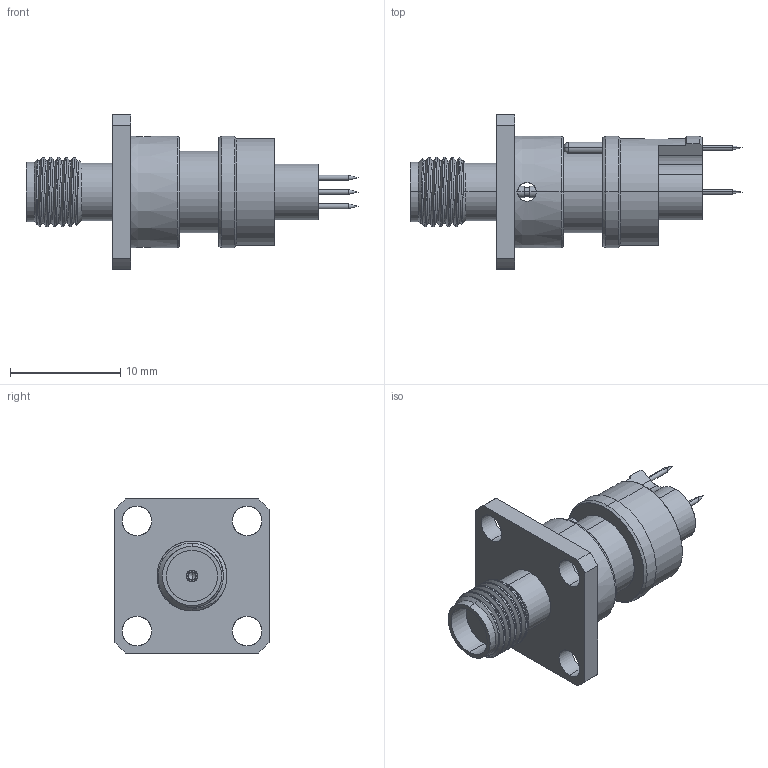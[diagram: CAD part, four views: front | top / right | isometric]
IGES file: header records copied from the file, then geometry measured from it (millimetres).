
Start section: SolidWorks IGES file using analytic representation for surfaces
Global section: file name: Z:\probe solid model mockups\Solidworks models\IGES Files\K-50H-S-SPL-01B-119 IGES files\K-50H-S-SPL-01B-119 Full.IGS; native system: SolidWorks 2006 by SolidWorks Corporation; preprocessor: SolidWorks 2006 by SolidWorks Corporation; author: tsakatani; date: 080108.084140; units: inch
Bounding box: 30.15 x 14 x 14 mm (x, y, z)
Surface area: 1409.8 mm2 (no closed solid volume)
Topology: 0 solids, 0 shells, 143 faces, 2255 edges, 2247 vertices
Faces by surface type: revolution 107, bspline 36
